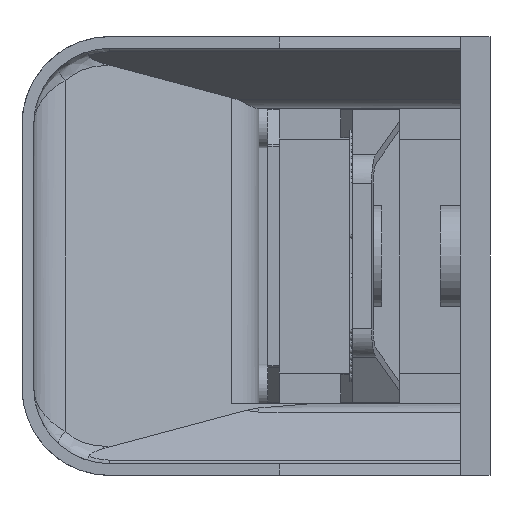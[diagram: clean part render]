
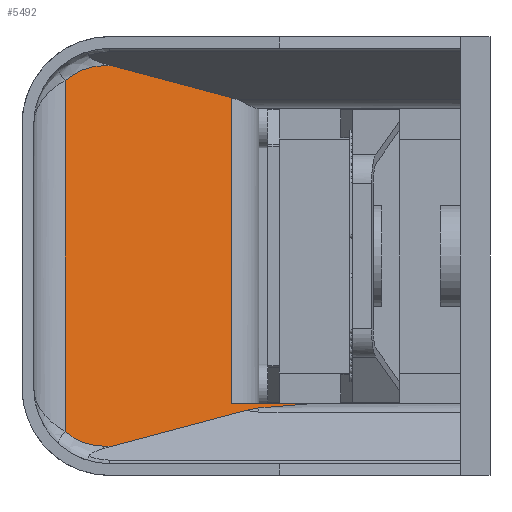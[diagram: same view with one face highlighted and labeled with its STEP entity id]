
A CAD part, left-side view. The second image highlights one B-rep face of the part: STEP entity #5492.
In plain terms, the highlighted planar face has unit normal (-0.944, -0.331, 0).
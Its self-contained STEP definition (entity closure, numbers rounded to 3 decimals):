
#183 = CARTESIAN_POINT ( 'NONE',  ( -30.775, 71.676, -50.5 ) ) ;
#211 = PLANE ( 'NONE',  #3932 ) ;
#267 = CARTESIAN_POINT ( 'NONE',  ( -27.899, 63.475, -50.992 ) ) ;
#352 = CARTESIAN_POINT ( 'NONE',  ( -30.315, 70.365, -52.168 ) ) ;
#367 = VERTEX_POINT ( 'NONE', #14360 ) ;
#411 = DIRECTION ( 'NONE',  ( -0.331, 0.944, 0. ) ) ;
#426 = LINE ( 'NONE', #11032, #11981 ) ;
#443 = LINE ( 'NONE', #1523, #6434 ) ;
#795 = EDGE_CURVE ( 'NONE', #3701, #12410, #426, .T. ) ;
#827 = ORIENTED_EDGE ( 'NONE', *, *, #3918, .T. ) ;
#885 = B_SPLINE_CURVE_WITH_KNOTS ( 'NONE', 3,
 ( #11971, #6854, #7280, #6200, #3394, #4550, #1358, #11823, #3671, #352, #3741, #1285 ),
 .UNSPECIFIED., .F., .F.,
 ( 4, 2, 2, 2, 2, 4 ),
 ( 0.104, 0.104, 0.104, 0.105, 0.106, 0.108 ),
 .UNSPECIFIED. ) ;
#912 = DIRECTION ( 'NONE',  ( 0., 0., 1. ) ) ;
#913 = CARTESIAN_POINT ( 'NONE',  ( -33.121, 78.367, 54.125 ) ) ;
#1134 = EDGE_CURVE ( 'NONE', #12427, #13437, #4077, .T. ) ;
#1170 = VERTEX_POINT ( 'NONE', #7559 ) ;
#1285 = CARTESIAN_POINT ( 'NONE',  ( -29.836, 69., -51.949 ) ) ;
#1358 = CARTESIAN_POINT ( 'NONE',  ( -30.94, 72.149, -52.497 ) ) ;
#1521 = VECTOR ( 'NONE', #10732, 1000. ) ;
#1523 = CARTESIAN_POINT ( 'NONE',  ( -53.082, 135.294, -75. ) ) ;
#1612 = CARTESIAN_POINT ( 'NONE',  ( -53.995, 137.897, 69.974 ) ) ;
#1756 = DIRECTION ( 'NONE',  ( 0., 0., -1. ) ) ;
#2287 = ORIENTED_EDGE ( 'NONE', *, *, #6919, .T. ) ;
#2502 = VERTEX_POINT ( 'NONE', #5469 ) ;
#2527 = FACE_OUTER_BOUND ( 'NONE', #4011, .T. ) ;
#2562 = VERTEX_POINT ( 'NONE', #3166 ) ;
#2697 = LINE ( 'NONE', #10845, #14336 ) ;
#3123 = ORIENTED_EDGE ( 'NONE', *, *, #8939, .T. ) ;
#3135 = CARTESIAN_POINT ( 'NONE',  ( -47.444, 119.215, -65. ) ) ;
#3166 = CARTESIAN_POINT ( 'NONE',  ( -29.836, 69., -51.949 ) ) ;
#3319 = CARTESIAN_POINT ( 'NONE',  ( -30.775, 71.676, 65. ) ) ;
#3394 = CARTESIAN_POINT ( 'NONE',  ( -31.034, 72.417, -52.556 ) ) ;
#3440 = ORIENTED_EDGE ( 'NONE', *, *, #11174, .F. ) ;
#3671 = CARTESIAN_POINT ( 'NONE',  ( -30.673, 71.387, -52.346 ) ) ;
#3701 = VERTEX_POINT ( 'NONE', #3135 ) ;
#3741 = CARTESIAN_POINT ( 'NONE',  ( -30.075, 69.681, -52.067 ) ) ;
#3918 = EDGE_CURVE ( 'NONE', #8313, #12531, #7486, .T. ) ;
#3932 = AXIS2_PLACEMENT_3D ( 'NONE', #11763, #4763, #13137 ) ;
#4011 = EDGE_LOOP ( 'NONE', ( #11575, #3123, #9210, #827, #3440, #2287, #14585, #4210, #11666, #12608, #12715 ) ) ;
#4077 =( BOUNDED_CURVE ( )  B_SPLINE_CURVE ( 3, ( #8555, #7407, #4885, #6333 ),
 .UNSPECIFIED., .F., .T. ) 
 B_SPLINE_CURVE_WITH_KNOTS ( ( 4, 4 ),
 ( 0.843, 1.571 ),
 .UNSPECIFIED. ) 
 CURVE ( )  GEOMETRIC_REPRESENTATION_ITEM ( )  RATIONAL_B_SPLINE_CURVE ( ( 1., 0.956, 0.956, 1. ) ) 
 REPRESENTATION_ITEM ( '' )  );
#4172 = VERTEX_POINT ( 'NONE', #913 ) ;
#4210 = ORIENTED_EDGE ( 'NONE', *, *, #1134, .F. ) ;
#4550 = CARTESIAN_POINT ( 'NONE',  ( -30.972, 72.239, -52.516 ) ) ;
#4590 = VECTOR ( 'NONE', #1756, 1000. ) ;
#4763 = DIRECTION ( 'NONE',  ( -0.944, -0.331, 0. ) ) ;
#4885 = CARTESIAN_POINT ( 'NONE',  ( -50.156, 126.95, 65. ) ) ;
#4893 = CARTESIAN_POINT ( 'NONE',  ( -23.634, 51.312, -50.5 ) ) ;
#4902 = VECTOR ( 'NONE', #411, 1000. ) ;
#5311 = LINE ( 'NONE', #7374, #4590 ) ;
#5464 = CARTESIAN_POINT ( 'NONE',  ( -53.082, 135.294, 59.929 ) ) ;
#5469 = CARTESIAN_POINT ( 'NONE',  ( -31.282, 73.124, -52.728 ) ) ;
#5492 = ADVANCED_FACE ( 'NONE', ( #2527 ), #211, .T. ) ;
#6200 = CARTESIAN_POINT ( 'NONE',  ( -31.065, 72.506, -52.576 ) ) ;
#6333 = CARTESIAN_POINT ( 'NONE',  ( -48.415, 121.985, 65. ) ) ;
#6434 = VECTOR ( 'NONE', #912, 1000. ) ;
#6585 = EDGE_CURVE ( 'NONE', #13437, #1170, #8430, .T. ) ;
#6854 = CARTESIAN_POINT ( 'NONE',  ( -31.22, 72.948, -52.682 ) ) ;
#6919 = EDGE_CURVE ( 'NONE', #4172, #1170, #9692, .T. ) ;
#7280 = CARTESIAN_POINT ( 'NONE',  ( -31.159, 72.771, -52.638 ) ) ;
#7374 = CARTESIAN_POINT ( 'NONE',  ( -33.121, 78.367, -75. ) ) ;
#7407 = CARTESIAN_POINT ( 'NONE',  ( -51.783, 131.589, 63.232 ) ) ;
#7486 = LINE ( 'NONE', #183, #4902 ) ;
#7501 = CARTESIAN_POINT ( 'NONE',  ( -23.634, 51.312, -50.5 ) ) ;
#7559 = CARTESIAN_POINT ( 'NONE',  ( -47.444, 119.215, 65. ) ) ;
#8033 = EDGE_CURVE ( 'NONE', #367, #12427, #443, .T. ) ;
#8313 = VERTEX_POINT ( 'NONE', #7501 ) ;
#8348 = CARTESIAN_POINT ( 'NONE',  ( -29.836, 69., -51.949 ) ) ;
#8364 = CARTESIAN_POINT ( 'NONE',  ( -53.082, 135.294, -59.929 ) ) ;
#8430 = LINE ( 'NONE', #3319, #1521 ) ;
#8527 = DIRECTION ( 'NONE',  ( -0.321, 0.915, 0.244 ) ) ;
#8555 = CARTESIAN_POINT ( 'NONE',  ( -53.082, 135.294, 59.929 ) ) ;
#8574 = CARTESIAN_POINT ( 'NONE',  ( -51.783, 131.589, -63.232 ) ) ;
#8939 = EDGE_CURVE ( 'NONE', #2502, #2562, #885, .T. ) ;
#9210 = ORIENTED_EDGE ( 'NONE', *, *, #13006, .T. ) ;
#9350 = VECTOR ( 'NONE', #8527, 1000. ) ;
#9692 = LINE ( 'NONE', #1612, #9350 ) ;
#9991 = CARTESIAN_POINT ( 'NONE',  ( -48.415, 121.985, -65. ) ) ;
#10086 = CARTESIAN_POINT ( 'NONE',  ( -48.415, 121.985, 65. ) ) ;
#10384 = EDGE_CURVE ( 'NONE', #12410, #367, #12343, .T. ) ;
#10732 = DIRECTION ( 'NONE',  ( 0.331, -0.944, 0. ) ) ;
#10845 = CARTESIAN_POINT ( 'NONE',  ( -32.546, 76.729, -53.689 ) ) ;
#11032 = CARTESIAN_POINT ( 'NONE',  ( -30.775, 71.676, -65. ) ) ;
#11174 = EDGE_CURVE ( 'NONE', #4172, #12531, #5311, .T. ) ;
#11575 = ORIENTED_EDGE ( 'NONE', *, *, #14373, .F. ) ;
#11666 = ORIENTED_EDGE ( 'NONE', *, *, #8033, .F. ) ;
#11763 = CARTESIAN_POINT ( 'NONE',  ( -30.775, 71.676, -75. ) ) ;
#11823 = CARTESIAN_POINT ( 'NONE',  ( -30.792, 71.726, -52.409 ) ) ;
#11971 = CARTESIAN_POINT ( 'NONE',  ( -31.282, 73.124, -52.728 ) ) ;
#11981 = VECTOR ( 'NONE', #13259, 1000. ) ;
#12343 =( BOUNDED_CURVE ( )  B_SPLINE_CURVE ( 3, ( #13129, #14192, #8574, #8364 ),
 .UNSPECIFIED., .F., .T. ) 
 B_SPLINE_CURVE_WITH_KNOTS ( ( 4, 4 ),
 ( 1.571, 2.299 ),
 .UNSPECIFIED. ) 
 CURVE ( )  GEOMETRIC_REPRESENTATION_ITEM ( )  RATIONAL_B_SPLINE_CURVE ( ( 1., 0.956, 0.956, 1. ) ) 
 REPRESENTATION_ITEM ( '' )  );
#12410 = VERTEX_POINT ( 'NONE', #9991 ) ;
#12427 = VERTEX_POINT ( 'NONE', #5464 ) ;
#12531 = VERTEX_POINT ( 'NONE', #12985 ) ;
#12608 = ORIENTED_EDGE ( 'NONE', *, *, #10384, .F. ) ;
#12715 = ORIENTED_EDGE ( 'NONE', *, *, #795, .F. ) ;
#12985 = CARTESIAN_POINT ( 'NONE',  ( -33.121, 78.367, -50.5 ) ) ;
#13006 = EDGE_CURVE ( 'NONE', #2562, #8313, #13995, .T. ) ;
#13039 = CARTESIAN_POINT ( 'NONE',  ( -25.795, 57.474, -50.5 ) ) ;
#13129 = CARTESIAN_POINT ( 'NONE',  ( -48.415, 121.985, -65. ) ) ;
#13137 = DIRECTION ( 'NONE',  ( 0.331, -0.944, 0. ) ) ;
#13259 = DIRECTION ( 'NONE',  ( -0.331, 0.944, 0. ) ) ;
#13437 = VERTEX_POINT ( 'NONE', #10086 ) ;
#13995 =( BOUNDED_CURVE ( )  B_SPLINE_CURVE ( 3, ( #8348, #267, #13039, #4893 ),
 .UNSPECIFIED., .F., .T. ) 
 B_SPLINE_CURVE_WITH_KNOTS ( ( 4, 4 ),
 ( 1.112, 1.571 ),
 .UNSPECIFIED. ) 
 CURVE ( )  GEOMETRIC_REPRESENTATION_ITEM ( )  RATIONAL_B_SPLINE_CURVE ( ( 1., 0.983, 0.983, 1. ) ) 
 REPRESENTATION_ITEM ( '' )  );
#14192 = CARTESIAN_POINT ( 'NONE',  ( -50.156, 126.95, -65. ) ) ;
#14336 = VECTOR ( 'NONE', #14448, 1000. ) ;
#14360 = CARTESIAN_POINT ( 'NONE',  ( -53.082, 135.294, -59.929 ) ) ;
#14373 = EDGE_CURVE ( 'NONE', #2502, #3701, #2697, .T. ) ;
#14448 = DIRECTION ( 'NONE',  ( -0.321, 0.915, -0.244 ) ) ;
#14585 = ORIENTED_EDGE ( 'NONE', *, *, #6585, .F. ) ;
